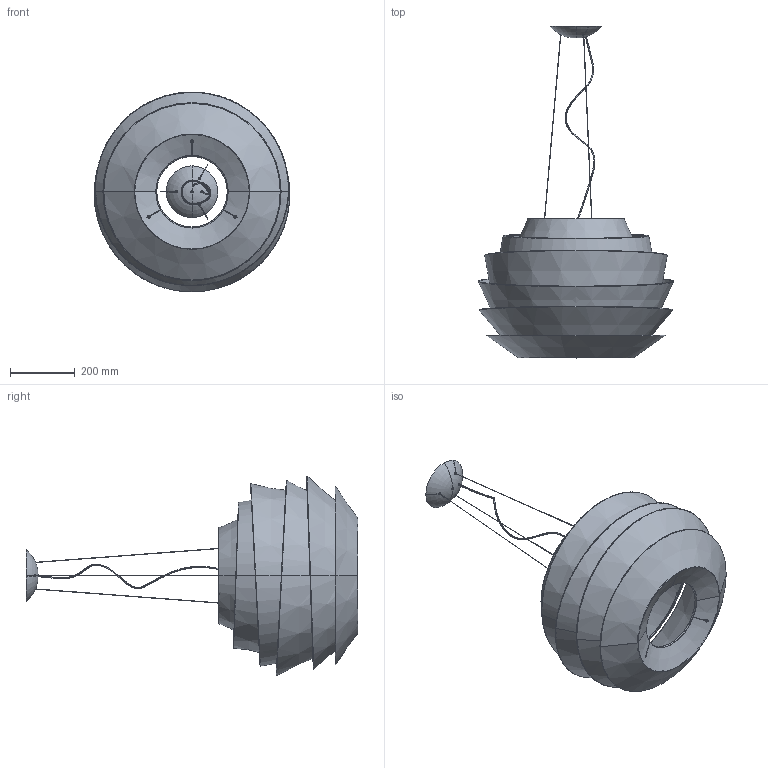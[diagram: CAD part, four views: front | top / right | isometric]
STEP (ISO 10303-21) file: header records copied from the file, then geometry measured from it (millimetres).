
FILE_DESCRIPTION (( 'STEP AP203' ), '1' );
FILE_NAME ('181_STD_S_XX_3D.STEP', '2021-10-25T11:00:12', ( '' ), ( '' ), 'SwSTEP 2.0', 'SolidWorks 2021', '' );
FILE_SCHEMA (( 'CONFIG_CONTROL_DESIGN' ));
Length unit declared in the file: millimetre
Products named in the file (1): 181_STD_S_XX_3D
Bounding box: 603.85 x 1024.89 x 617.08 mm (x, y, z)
Volume: 3547454.7 mm3; surface area: 2197482.1 mm2
Topology: 7 solids, 7 shells, 1424 faces, 3532 edges, 2100 vertices
Faces by surface type: bspline 520, plane 275, cylinder 243, torus 209, cone 109, sphere 68
Entity records: 67261 total; most frequent: CARTESIAN_POINT 38053, ORIENTED_EDGE 6944, DIRECTION 5025, EDGE_CURVE 3472, AXIS2_PLACEMENT_3D 2136, VERTEX_POINT 2088, EDGE_LOOP 1462, FACE_OUTER_BOUND 1424
